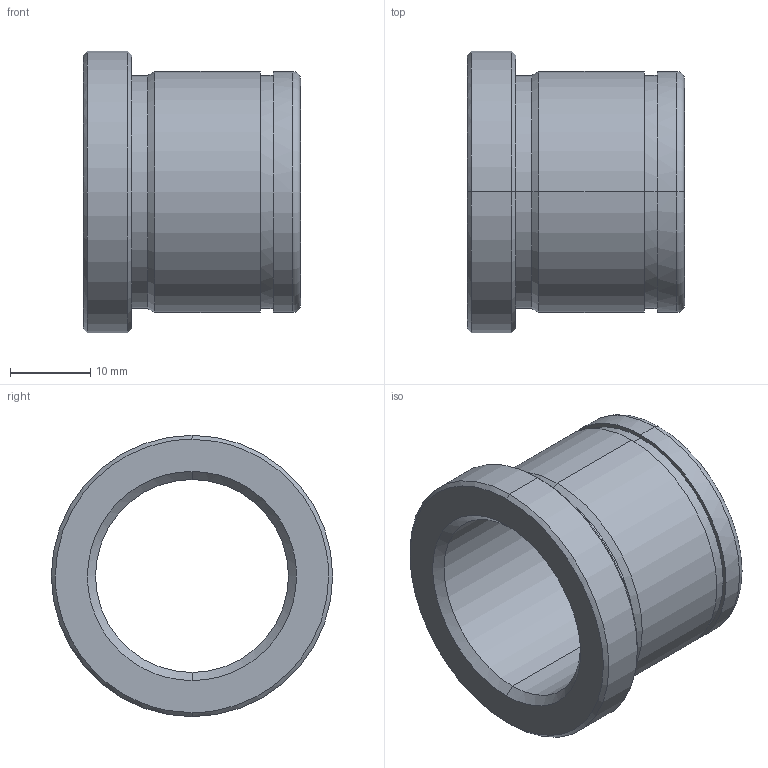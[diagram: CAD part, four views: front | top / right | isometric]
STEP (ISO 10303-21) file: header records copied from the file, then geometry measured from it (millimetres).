
FILE_DESCRIPTION(('CATIA V5 STEP Exchange'),'2;1');
FILE_NAME('C:\Users\Utente\Desktop\IO LAVORO\3D X SITO CF\X SITO\PLASTICA\553\553-24X27.stp','2021-05-25T18:24:13+00:00',('none'),('none'),'CATIA Version 5 Release 20 GA (IN-10)','CATIA V5 STEP AP203','none');
FILE_SCHEMA(('CONFIG_CONTROL_DESIGN'));
Length unit declared in the file: millimetre
Products named in the file (1): 553-24X27
Bounding box: 27 x 35 x 35 mm (x, y, z)
Volume: 8091.9 mm3; surface area: 5636.5 mm2
Topology: 1 solids, 1 shells, 29 faces, 92 edges, 68 vertices
Faces by surface type: cylinder 12, cone 8, plane 5, torus 4
Entity records: 1222 total; most frequent: CARTESIAN_POINT 368, ORIENTED_EDGE 184, DIRECTION 136, EDGE_CURVE 92, AXIS2_PLACEMENT_3D 88, VERTEX_POINT 68, CIRCLE 58, EDGE_LOOP 34
